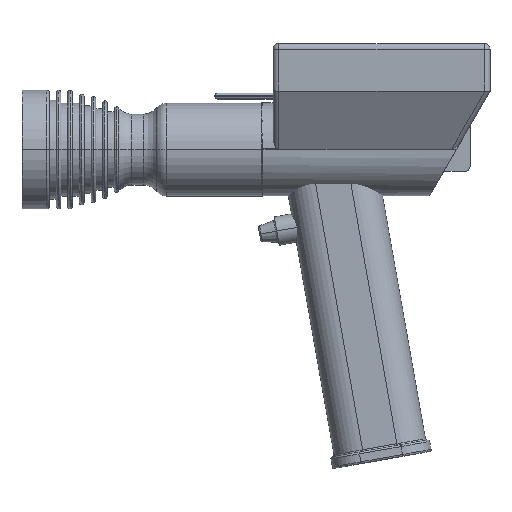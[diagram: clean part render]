
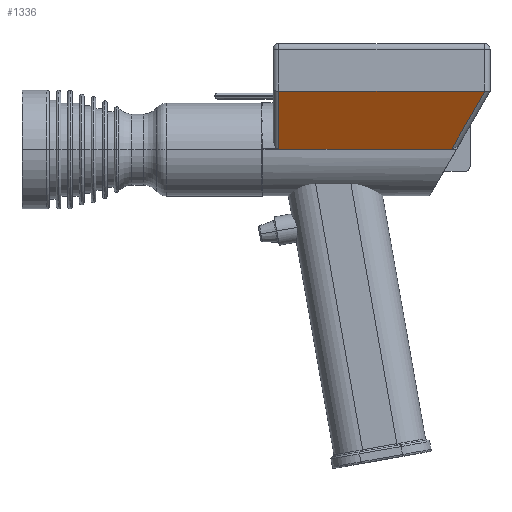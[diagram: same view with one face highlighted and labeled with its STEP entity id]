
A CAD part, top view. The second image highlights one B-rep face of the part: STEP entity #1336.
In plain terms, the highlighted planar face has unit normal (0, -0.5, 0.866).
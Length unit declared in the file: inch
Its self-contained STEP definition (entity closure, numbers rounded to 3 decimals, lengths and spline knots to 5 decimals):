
#202 =( BOUNDED_CURVE ( )  B_SPLINE_CURVE ( 3, ( #247, #246, #245, #244 ),
 .UNSPECIFIED., .F., .T. ) 
 B_SPLINE_CURVE_WITH_KNOTS ( ( 4, 4 ),
 ( 3.01525, 3.14159 ),
 .UNSPECIFIED. ) 
 CURVE ( )  GEOMETRIC_REPRESENTATION_ITEM ( )  RATIONAL_B_SPLINE_CURVE ( ( 1., 0.999, 0.999, 1. ) ) 
 REPRESENTATION_ITEM ( '' )  );
#205 = CARTESIAN_POINT ( 'NONE',  ( 3.6526, 0.99862, -0.0008 ) ) ;
#244 = CARTESIAN_POINT ( 'NONE',  ( 3.64, 1., 0. ) ) ;
#245 = CARTESIAN_POINT ( 'NONE',  ( 3.64421, 1., 0. ) ) ;
#246 = CARTESIAN_POINT ( 'NONE',  ( 3.64842, 0.99954, -0.00027 ) ) ;
#247 = CARTESIAN_POINT ( 'NONE',  ( 3.6526, 0.99862, -0.0008 ) ) ;
#269 = CARTESIAN_POINT ( 'NONE',  ( 3.07605, 0., -0.57735 ) ) ;
#286 = DIRECTION ( 'NONE',  ( 1., 0., 0. ) ) ;
#287 = VECTOR ( 'NONE', #286, 39.37008 ) ;
#288 = CARTESIAN_POINT ( 'NONE',  ( 0., 0., -0.57735 ) ) ;
#289 = LINE ( 'NONE', #288, #287 ) ;
#1277 = VERTEX_POINT ( 'NONE', #205 ) ;
#1278 = ORIENTED_EDGE ( 'NONE', *, *, #1279, .T. ) ;
#1279 = EDGE_CURVE ( 'NONE', #1277, #1356, #202, .T. ) ;
#1290 = VERTEX_POINT ( 'NONE', #269 ) ;
#1306 = EDGE_CURVE ( 'NONE', #1309, #1290, #289, .T. ) ;
#1309 = VERTEX_POINT ( 'NONE', #3019 ) ;
#1336 = ADVANCED_FACE ( 'NONE', ( #3838 ), #3837, .T. ) ;
#1337 = EDGE_LOOP ( 'NONE', ( #1338, #1357, #1359, #1360, #1278 ) ) ;
#1338 = ORIENTED_EDGE ( 'NONE', *, *, #1339, .F. ) ;
#1339 = EDGE_CURVE ( 'NONE', #1340, #1356, #3885, .T. ) ;
#1340 = VERTEX_POINT ( 'NONE', #3881 ) ;
#1356 = VERTEX_POINT ( 'NONE', #3860 ) ;
#1357 = ORIENTED_EDGE ( 'NONE', *, *, #1358, .T. ) ;
#1358 = EDGE_CURVE ( 'NONE', #1340, #1309, #3913, .T. ) ;
#1359 = ORIENTED_EDGE ( 'NONE', *, *, #1306, .T. ) ;
#1360 = ORIENTED_EDGE ( 'NONE', *, *, #1361, .T. ) ;
#1361 = EDGE_CURVE ( 'NONE', #1290, #1277, #3909, .T. ) ;
#3019 = CARTESIAN_POINT ( 'NONE',  ( 0.1, 0., -0.57735 ) ) ;
#3836 = CARTESIAN_POINT ( 'NONE',  ( 0., 1., 0. ) ) ;
#3837 = PLANE ( 'NONE',  #3888 ) ;
#3838 = FACE_OUTER_BOUND ( 'NONE', #1337, .T. ) ;
#3860 = CARTESIAN_POINT ( 'NONE',  ( 3.64, 1., 0. ) ) ;
#3881 = CARTESIAN_POINT ( 'NONE',  ( 0.1, 1., 0. ) ) ;
#3882 = DIRECTION ( 'NONE',  ( 1., 0., 0. ) ) ;
#3883 = VECTOR ( 'NONE', #3882, 39.37008 ) ;
#3884 = CARTESIAN_POINT ( 'NONE',  ( 0., 1., 0. ) ) ;
#3885 = LINE ( 'NONE', #3884, #3883 ) ;
#3886 = DIRECTION ( 'NONE',  ( 0., -0.866, -0.5 ) ) ;
#3887 = DIRECTION ( 'NONE',  ( 0., -0.5, 0.866 ) ) ;
#3888 = AXIS2_PLACEMENT_3D ( 'NONE', #3836, #3887, #3886 ) ;
#3906 = DIRECTION ( 'NONE',  ( 0.447, 0.775, 0.447 ) ) ;
#3907 = VECTOR ( 'NONE', #3906, 39.37008 ) ;
#3908 = CARTESIAN_POINT ( 'NONE',  ( 2.92272, -0.26557, -0.73068 ) ) ;
#3909 = LINE ( 'NONE', #3908, #3907 ) ;
#3910 = DIRECTION ( 'NONE',  ( 0., -0.866, -0.5 ) ) ;
#3911 = VECTOR ( 'NONE', #3910, 39.37008 ) ;
#3912 = CARTESIAN_POINT ( 'NONE',  ( 0.1, 1., 0. ) ) ;
#3913 = LINE ( 'NONE', #3912, #3911 ) ;
